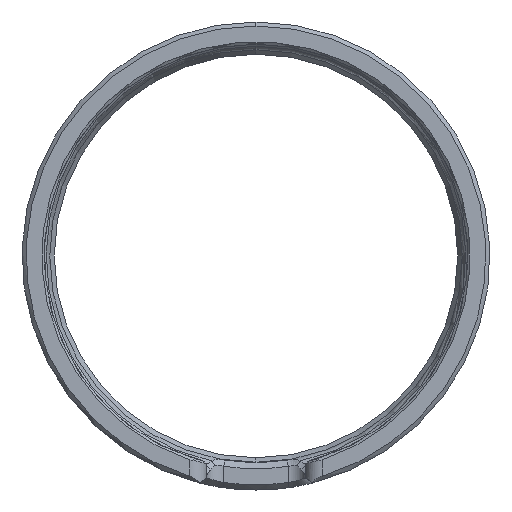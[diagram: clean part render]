
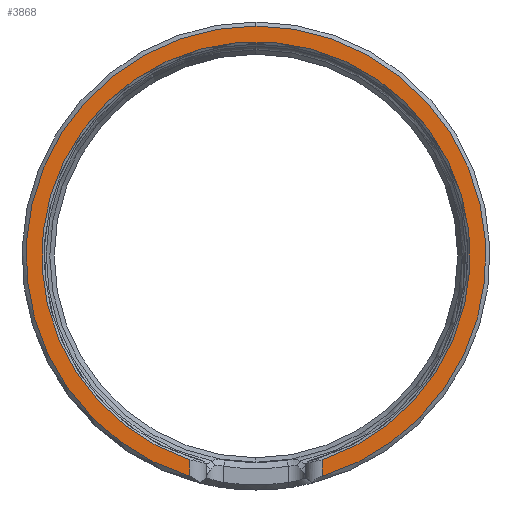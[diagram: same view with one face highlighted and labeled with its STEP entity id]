
A CAD part, left-side view. The second image highlights one B-rep face of the part: STEP entity #3868.
In plain terms, the highlighted planar face has unit normal (-1, 0, 0).
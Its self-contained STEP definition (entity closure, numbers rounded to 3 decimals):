
#201 = CIRCLE ( 'NONE', #6232, 26.55 ) ;
#225 = EDGE_CURVE ( 'NONE', #6141, #3656, #5510, .T. ) ;
#626 = VERTEX_POINT ( 'NONE', #4066 ) ;
#905 = EDGE_CURVE ( 'NONE', #626, #1261, #4947, .T. ) ;
#1016 = CARTESIAN_POINT ( 'NONE',  ( -150., 0., 0. ) ) ;
#1025 = CARTESIAN_POINT ( 'NONE',  ( -150., 8.2, -29. ) ) ;
#1225 = ORIENTED_EDGE ( 'NONE', *, *, #225, .T. ) ;
#1261 = VERTEX_POINT ( 'NONE', #5398 ) ;
#1263 = ORIENTED_EDGE ( 'NONE', *, *, #905, .F. ) ;
#1548 = LINE ( 'NONE', #1025, #6377 ) ;
#1582 = DIRECTION ( 'NONE',  ( 0., 0., 1. ) ) ;
#1664 = AXIS2_PLACEMENT_3D ( 'NONE', #3924, #5893, #3959 ) ;
#1971 = CARTESIAN_POINT ( 'NONE',  ( -150., -8.2, -29. ) ) ;
#2103 = FACE_OUTER_BOUND ( 'NONE', #3627, .T. ) ;
#2422 = CARTESIAN_POINT ( 'NONE',  ( -150., 0., 28.5 ) ) ;
#2679 = EDGE_CURVE ( 'NONE', #3656, #3500, #1548, .T. ) ;
#2711 = CARTESIAN_POINT ( 'NONE',  ( -150., 8.2, -25.252 ) ) ;
#2900 = CARTESIAN_POINT ( 'NONE',  ( -150., 0., 0. ) ) ;
#3046 = DIRECTION ( 'NONE',  ( 0., 0., 1. ) ) ;
#3088 = VECTOR ( 'NONE', #3971, 1000. ) ;
#3268 = AXIS2_PLACEMENT_3D ( 'NONE', #3611, #3577, #6160 ) ;
#3270 = ORIENTED_EDGE ( 'NONE', *, *, #2679, .T. ) ;
#3457 = ORIENTED_EDGE ( 'NONE', *, *, #4087, .T. ) ;
#3500 = VERTEX_POINT ( 'NONE', #2711 ) ;
#3577 = DIRECTION ( 'NONE',  ( -1., 0., 0. ) ) ;
#3611 = CARTESIAN_POINT ( 'NONE',  ( -150., 0., 0. ) ) ;
#3627 = EDGE_LOOP ( 'NONE', ( #1263, #3457, #1225, #3270, #5470 ) ) ;
#3656 = VERTEX_POINT ( 'NONE', #5625 ) ;
#3868 = ADVANCED_FACE ( 'NONE', ( #2103 ), #5687, .T. ) ;
#3890 = DIRECTION ( 'NONE',  ( -1., 0., 0. ) ) ;
#3924 = CARTESIAN_POINT ( 'NONE',  ( -150., 0., 0. ) ) ;
#3959 = DIRECTION ( 'NONE',  ( 0., 0., 1. ) ) ;
#3971 = DIRECTION ( 'NONE',  ( 0., 0., 1. ) ) ;
#3972 = DIRECTION ( 'NONE',  ( -1., 0., 0. ) ) ;
#4066 = CARTESIAN_POINT ( 'NONE',  ( -150., -8.2, -27.295 ) ) ;
#4087 = EDGE_CURVE ( 'NONE', #626, #6141, #4744, .T. ) ;
#4162 = EDGE_CURVE ( 'NONE', #1261, #3500, #201, .T. ) ;
#4744 = CIRCLE ( 'NONE', #1664, 28.5 ) ;
#4947 = LINE ( 'NONE', #1971, #3088 ) ;
#5207 = AXIS2_PLACEMENT_3D ( 'NONE', #1016, #3972, #3046 ) ;
#5398 = CARTESIAN_POINT ( 'NONE',  ( -150., -8.2, -25.252 ) ) ;
#5470 = ORIENTED_EDGE ( 'NONE', *, *, #4162, .F. ) ;
#5485 = DIRECTION ( 'NONE',  ( 0., 0., 1. ) ) ;
#5510 = CIRCLE ( 'NONE', #5207, 28.5 ) ;
#5625 = CARTESIAN_POINT ( 'NONE',  ( -150., 8.2, -27.295 ) ) ;
#5687 = PLANE ( 'NONE',  #3268 ) ;
#5893 = DIRECTION ( 'NONE',  ( -1., 0., 0. ) ) ;
#6141 = VERTEX_POINT ( 'NONE', #2422 ) ;
#6160 = DIRECTION ( 'NONE',  ( 0., 0., -1. ) ) ;
#6232 = AXIS2_PLACEMENT_3D ( 'NONE', #2900, #3890, #5485 ) ;
#6377 = VECTOR ( 'NONE', #1582, 1000. ) ;
